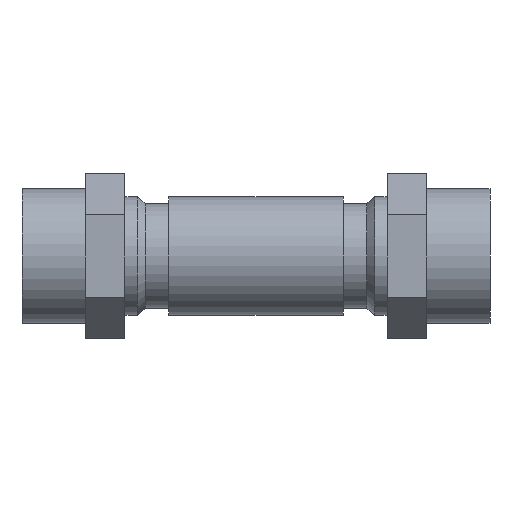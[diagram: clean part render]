
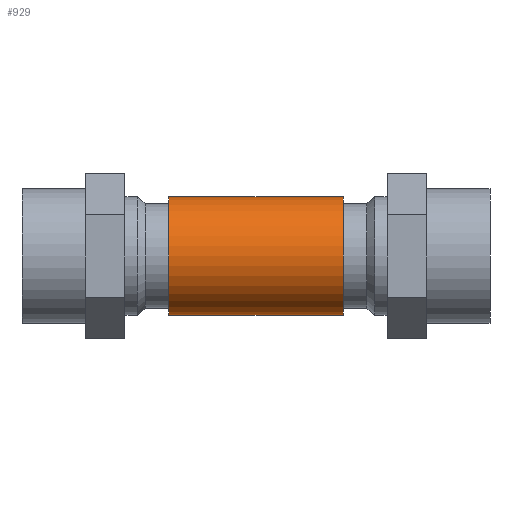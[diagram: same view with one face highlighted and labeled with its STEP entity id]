
A CAD part, front view. The second image highlights one B-rep face of the part: STEP entity #929.
In plain terms, the highlighted cylindrical face has radius 19.05 mm (diameter 38.1 mm), a full revolution.
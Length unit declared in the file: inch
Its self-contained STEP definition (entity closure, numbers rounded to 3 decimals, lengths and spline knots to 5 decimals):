
#48=B_SPLINE_CURVE_WITH_KNOTS('',3,(#1435,#1436,#1437,#1438,#1439,#1440,
#1441,#1442,#1443,#1444,#1445,#1446,#1447,#1448,#1449,#1450,#1451,#1452,
#1453,#1454,#1455,#1456,#1457,#1458,#1459,#1460,#1461,#1462,#1463,#1464,
#1465,#1466,#1467,#1468,#1469,#1470),.UNSPECIFIED.,.F.,.F.,(4,2,2,2,2,2,
2,2,2,2,2,2,2,2,2,2,2,4),(0.,0.24644,0.49289,0.73933,
0.98577,1.47331,1.96084,2.44838,2.93591,
3.18236,3.4288,3.67524,3.92169,4.52898,
5.13628,5.69999,5.98184,6.26369),
 .UNSPECIFIED.);
#49=B_SPLINE_CURVE_WITH_KNOTS('',3,(#1471,#1472,#1473,#1474,#1475,#1476,
#1477,#1478,#1479,#1480,#1481,#1482),.UNSPECIFIED.,.F.,.F.,(4,2,2,2,2,4),
(6.26369,6.53995,6.81621,7.36873,7.98666,
8.60459),.UNSPECIFIED.);
#54=CYLINDRICAL_SURFACE('',#1016,0.75);
#69=FACE_BOUND('',#198,.T.);
#90=CIRCLE('',#1009,0.75);
#91=CIRCLE('',#1010,0.75);
#93=CIRCLE('',#1013,0.75);
#94=CIRCLE('',#1014,0.75);
#143=FACE_OUTER_BOUND('',#197,.T.);
#197=EDGE_LOOP('',(#665,#666,#667,#668,#669,#670));
#198=EDGE_LOOP('',(#671,#672));
#261=LINE('',#1524,#332);
#332=VECTOR('',#1188,0.75);
#396=VERTEX_POINT('',#1432);
#397=VERTEX_POINT('',#1434);
#406=VERTEX_POINT('',#1510);
#407=VERTEX_POINT('',#1511);
#409=VERTEX_POINT('',#1517);
#410=VERTEX_POINT('',#1518);
#489=EDGE_CURVE('',#397,#396,#48,.T.);
#490=EDGE_CURVE('',#396,#397,#49,.T.);
#503=EDGE_CURVE('',#406,#407,#90,.T.);
#504=EDGE_CURVE('',#407,#406,#91,.T.);
#506=EDGE_CURVE('',#409,#410,#93,.T.);
#507=EDGE_CURVE('',#410,#409,#94,.T.);
#509=EDGE_CURVE('',#407,#410,#261,.T.);
#665=ORIENTED_EDGE('',*,*,#503,.F.);
#666=ORIENTED_EDGE('',*,*,#504,.F.);
#667=ORIENTED_EDGE('',*,*,#509,.T.);
#668=ORIENTED_EDGE('',*,*,#507,.T.);
#669=ORIENTED_EDGE('',*,*,#506,.T.);
#670=ORIENTED_EDGE('',*,*,#509,.F.);
#671=ORIENTED_EDGE('',*,*,#489,.T.);
#672=ORIENTED_EDGE('',*,*,#490,.T.);
#929=ADVANCED_FACE('',(#143,#69),#54,.T.);
#1009=AXIS2_PLACEMENT_3D('',#1512,#1172,#1173);
#1010=AXIS2_PLACEMENT_3D('',#1513,#1174,#1175);
#1013=AXIS2_PLACEMENT_3D('',#1519,#1180,#1181);
#1014=AXIS2_PLACEMENT_3D('',#1520,#1182,#1183);
#1016=AXIS2_PLACEMENT_3D('',#1523,#1186,#1187);
#1172=DIRECTION('center_axis',(1.,0.,0.));
#1173=DIRECTION('ref_axis',(0.,0.,-1.));
#1174=DIRECTION('center_axis',(1.,0.,0.));
#1175=DIRECTION('ref_axis',(0.,0.,-1.));
#1180=DIRECTION('center_axis',(1.,0.,0.));
#1181=DIRECTION('ref_axis',(0.,0.,-1.));
#1182=DIRECTION('center_axis',(1.,0.,0.));
#1183=DIRECTION('ref_axis',(0.,0.,-1.));
#1186=DIRECTION('center_axis',(1.,0.,0.));
#1187=DIRECTION('ref_axis',(0.,1.,0.));
#1188=DIRECTION('',(-1.,0.,0.));
#1432=CARTESIAN_POINT('',(0.76036,0.75,0.));
#1434=CARTESIAN_POINT('',(0.07275,0.55902,0.5));
#1435=CARTESIAN_POINT('Ctrl Pts',(0.07275,0.55902,
0.5));
#1436=CARTESIAN_POINT('Ctrl Pts',(0.04041,0.55902,
0.5));
#1437=CARTESIAN_POINT('Ctrl Pts',(0.007,0.5612,
0.49761));
#1438=CARTESIAN_POINT('Ctrl Pts',(-0.05857,0.57087,
0.48648));
#1439=CARTESIAN_POINT('Ctrl Pts',(-0.09073,0.57837,
0.47773));
#1440=CARTESIAN_POINT('Ctrl Pts',(-0.15098,0.5975,
0.45358));
#1441=CARTESIAN_POINT('Ctrl Pts',(-0.17919,0.60911,
0.43814));
#1442=CARTESIAN_POINT('Ctrl Pts',(-0.23011,0.63376,
0.40167));
#1443=CARTESIAN_POINT('Ctrl Pts',(-0.25283,0.64674,
0.38064));
#1444=CARTESIAN_POINT('Ctrl Pts',(-0.31138,0.68326,
0.31343));
#1445=CARTESIAN_POINT('Ctrl Pts',(-0.343,0.70764,
0.25673));
#1446=CARTESIAN_POINT('Ctrl Pts',(-0.38444,0.74111,0.13201));
#1447=CARTESIAN_POINT('Ctrl Pts',(-0.39434,0.75,0.06398));
#1448=CARTESIAN_POINT('Ctrl Pts',(-0.39434,0.75,-0.06398));
#1449=CARTESIAN_POINT('Ctrl Pts',(-0.38444,0.74111,-0.13201));
#1450=CARTESIAN_POINT('Ctrl Pts',(-0.343,0.70764,
-0.25673));
#1451=CARTESIAN_POINT('Ctrl Pts',(-0.31138,0.68326,
-0.31343));
#1452=CARTESIAN_POINT('Ctrl Pts',(-0.25283,0.64674,
-0.38064));
#1453=CARTESIAN_POINT('Ctrl Pts',(-0.23011,0.63376,
-0.40167));
#1454=CARTESIAN_POINT('Ctrl Pts',(-0.17919,0.60911,
-0.43814));
#1455=CARTESIAN_POINT('Ctrl Pts',(-0.15098,0.5975,
-0.45358));
#1456=CARTESIAN_POINT('Ctrl Pts',(-0.09073,0.57837,
-0.47773));
#1457=CARTESIAN_POINT('Ctrl Pts',(-0.05857,0.57087,
-0.48648));
#1458=CARTESIAN_POINT('Ctrl Pts',(0.007,0.5612,
-0.49761));
#1459=CARTESIAN_POINT('Ctrl Pts',(0.04041,0.55902,
-0.5));
#1460=CARTESIAN_POINT('Ctrl Pts',(0.15245,0.55902,-0.5));
#1461=CARTESIAN_POINT('Ctrl Pts',(0.23595,0.5723,-0.48576));
#1462=CARTESIAN_POINT('Ctrl Pts',(0.39471,0.61099,-0.4361));
#1463=CARTESIAN_POINT('Ctrl Pts',(0.46997,0.63599,-0.40043));
#1464=CARTESIAN_POINT('Ctrl Pts',(0.59235,0.68036,-0.31876));
#1465=CARTESIAN_POINT('Ctrl Pts',(0.65034,0.70365,-0.26724));
#1466=CARTESIAN_POINT('Ctrl Pts',(0.71339,0.72987,-0.17551));
#1467=CARTESIAN_POINT('Ctrl Pts',(0.73051,0.73716,-0.14253));
#1468=CARTESIAN_POINT('Ctrl Pts',(0.754,0.74723,-0.07328));
#1469=CARTESIAN_POINT('Ctrl Pts',(0.76036,0.75,-0.03699));
#1470=CARTESIAN_POINT('Ctrl Pts',(0.76036,0.75,0.));
#1471=CARTESIAN_POINT('Ctrl Pts',(0.76036,0.75,0.));
#1472=CARTESIAN_POINT('Ctrl Pts',(0.76036,0.75,0.03625));
#1473=CARTESIAN_POINT('Ctrl Pts',(0.75424,0.74734,0.07192));
#1474=CARTESIAN_POINT('Ctrl Pts',(0.73153,0.7376,0.14011));
#1475=CARTESIAN_POINT('Ctrl Pts',(0.71496,0.73053,0.17265));
#1476=CARTESIAN_POINT('Ctrl Pts',(0.6538,0.70507,0.26328));
#1477=CARTESIAN_POINT('Ctrl Pts',(0.59744,0.68237,0.31438));
#1478=CARTESIAN_POINT('Ctrl Pts',(0.47603,0.63802,0.39736));
#1479=CARTESIAN_POINT('Ctrl Pts',(0.39976,0.61245,0.43411));
#1480=CARTESIAN_POINT('Ctrl Pts',(0.23868,0.57275,0.48529));
#1481=CARTESIAN_POINT('Ctrl Pts',(0.15384,0.55902,0.5));
#1482=CARTESIAN_POINT('Ctrl Pts',(0.07275,0.55902,
0.5));
#1510=CARTESIAN_POINT('',(1.1,0.75,0.));
#1511=CARTESIAN_POINT('',(1.1,-0.75,0.));
#1512=CARTESIAN_POINT('Origin',(1.1,0.,0.));
#1513=CARTESIAN_POINT('Origin',(1.1,0.,0.));
#1517=CARTESIAN_POINT('',(-1.1,0.75,0.));
#1518=CARTESIAN_POINT('',(-1.1,-0.75,0.));
#1519=CARTESIAN_POINT('Origin',(-1.1,0.,0.));
#1520=CARTESIAN_POINT('Origin',(-1.1,0.,0.));
#1523=CARTESIAN_POINT('Origin',(0.,0.,0.));
#1524=CARTESIAN_POINT('',(0.,-0.75,0.));
